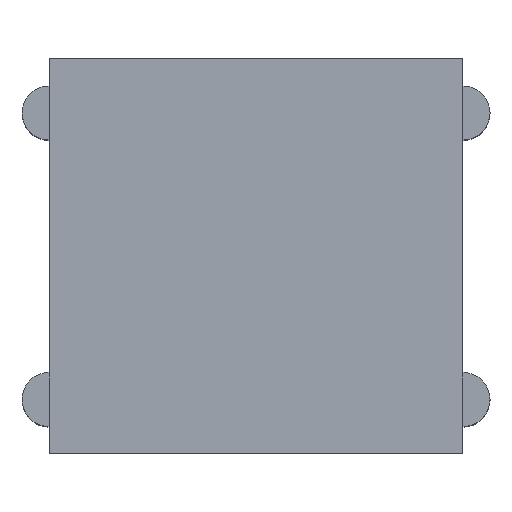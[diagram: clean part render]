
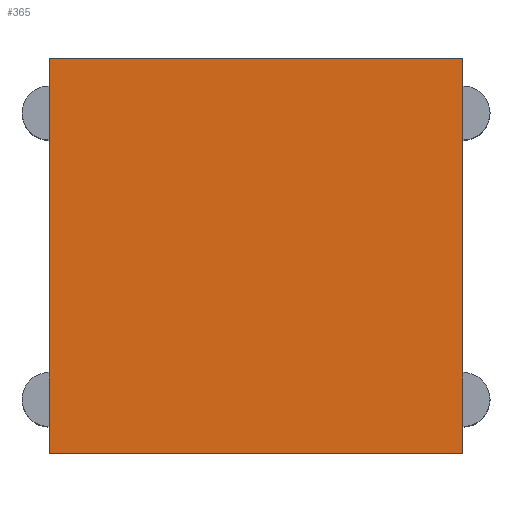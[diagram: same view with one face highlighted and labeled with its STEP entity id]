
A CAD part, top view. The second image highlights one B-rep face of the part: STEP entity #365.
In plain terms, the highlighted planar face has unit normal (0, 0, 1).
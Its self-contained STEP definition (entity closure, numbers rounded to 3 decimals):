
#51 = VERTEX_POINT('',#52);
#52 = CARTESIAN_POINT('',(0.,0.85,4.29));
#59 = PLANE('',#60);
#60 = AXIS2_PLACEMENT_3D('',#61,#62,#63);
#61 = CARTESIAN_POINT('',(0.,0.85,0.));
#62 = DIRECTION('',(0.,1.,0.));
#63 = DIRECTION('',(1.,0.,0.));
#71 = PLANE('',#72);
#72 = AXIS2_PLACEMENT_3D('',#73,#74,#75);
#73 = CARTESIAN_POINT('',(0.,-5.35,0.));
#74 = DIRECTION('',(-1.,0.,0.));
#75 = DIRECTION('',(0.,1.,0.));
#83 = EDGE_CURVE('',#51,#84,#86,.T.);
#84 = VERTEX_POINT('',#85);
#85 = CARTESIAN_POINT('',(6.5,0.85,4.29));
#86 = SURFACE_CURVE('',#87,(#91,#98),.PCURVE_S1.);
#87 = LINE('',#88,#89);
#88 = CARTESIAN_POINT('',(0.,0.85,4.29));
#89 = VECTOR('',#90,1.);
#90 = DIRECTION('',(1.,0.,0.));
#91 = PCURVE('',#59,#92);
#92 = DEFINITIONAL_REPRESENTATION('',(#93),#97);
#93 = LINE('',#94,#95);
#94 = CARTESIAN_POINT('',(0.,-4.29));
#95 = VECTOR('',#96,1.);
#96 = DIRECTION('',(1.,0.));
#97 = ( GEOMETRIC_REPRESENTATION_CONTEXT(2) 
PARAMETRIC_REPRESENTATION_CONTEXT() REPRESENTATION_CONTEXT('2D SPACE',''
  ) );
#98 = PCURVE('',#99,#104);
#99 = PLANE('',#100);
#100 = AXIS2_PLACEMENT_3D('',#101,#102,#103);
#101 = CARTESIAN_POINT('',(3.25,-2.25,4.29));
#102 = DIRECTION('',(-0.,-0.,-1.));
#103 = DIRECTION('',(-1.,0.,0.));
#104 = DEFINITIONAL_REPRESENTATION('',(#105),#109);
#105 = LINE('',#106,#107);
#106 = CARTESIAN_POINT('',(3.25,3.1));
#107 = VECTOR('',#108,1.);
#108 = DIRECTION('',(-1.,0.));
#109 = ( GEOMETRIC_REPRESENTATION_CONTEXT(2) 
PARAMETRIC_REPRESENTATION_CONTEXT() REPRESENTATION_CONTEXT('2D SPACE',''
  ) );
#127 = PLANE('',#128);
#128 = AXIS2_PLACEMENT_3D('',#129,#130,#131);
#129 = CARTESIAN_POINT('',(6.5,0.85,0.));
#130 = DIRECTION('',(1.,0.,-0.));
#131 = DIRECTION('',(0.,-1.,0.));
#169 = EDGE_CURVE('',#84,#170,#172,.T.);
#170 = VERTEX_POINT('',#171);
#171 = CARTESIAN_POINT('',(6.5,-5.35,4.29));
#172 = SURFACE_CURVE('',#173,(#177,#184),.PCURVE_S1.);
#173 = LINE('',#174,#175);
#174 = CARTESIAN_POINT('',(6.5,0.85,4.29));
#175 = VECTOR('',#176,1.);
#176 = DIRECTION('',(0.,-1.,0.));
#177 = PCURVE('',#127,#178);
#178 = DEFINITIONAL_REPRESENTATION('',(#179),#183);
#179 = LINE('',#180,#181);
#180 = CARTESIAN_POINT('',(0.,-4.29));
#181 = VECTOR('',#182,1.);
#182 = DIRECTION('',(1.,0.));
#183 = ( GEOMETRIC_REPRESENTATION_CONTEXT(2) 
PARAMETRIC_REPRESENTATION_CONTEXT() REPRESENTATION_CONTEXT('2D SPACE',''
  ) );
#184 = PCURVE('',#99,#185);
#185 = DEFINITIONAL_REPRESENTATION('',(#186),#190);
#186 = LINE('',#187,#188);
#187 = CARTESIAN_POINT('',(-3.25,3.1));
#188 = VECTOR('',#189,1.);
#189 = DIRECTION('',(0.,-1.));
#190 = ( GEOMETRIC_REPRESENTATION_CONTEXT(2) 
PARAMETRIC_REPRESENTATION_CONTEXT() REPRESENTATION_CONTEXT('2D SPACE',''
  ) );
#208 = PLANE('',#209);
#209 = AXIS2_PLACEMENT_3D('',#210,#211,#212);
#210 = CARTESIAN_POINT('',(6.5,-5.35,0.));
#211 = DIRECTION('',(0.,-1.,0.));
#212 = DIRECTION('',(-1.,0.,0.));
#245 = EDGE_CURVE('',#170,#246,#248,.T.);
#246 = VERTEX_POINT('',#247);
#247 = CARTESIAN_POINT('',(0.,-5.35,4.29));
#248 = SURFACE_CURVE('',#249,(#253,#260),.PCURVE_S1.);
#249 = LINE('',#250,#251);
#250 = CARTESIAN_POINT('',(6.5,-5.35,4.29));
#251 = VECTOR('',#252,1.);
#252 = DIRECTION('',(-1.,0.,0.));
#253 = PCURVE('',#208,#254);
#254 = DEFINITIONAL_REPRESENTATION('',(#255),#259);
#255 = LINE('',#256,#257);
#256 = CARTESIAN_POINT('',(0.,-4.29));
#257 = VECTOR('',#258,1.);
#258 = DIRECTION('',(1.,0.));
#259 = ( GEOMETRIC_REPRESENTATION_CONTEXT(2) 
PARAMETRIC_REPRESENTATION_CONTEXT() REPRESENTATION_CONTEXT('2D SPACE',''
  ) );
#260 = PCURVE('',#99,#261);
#261 = DEFINITIONAL_REPRESENTATION('',(#262),#266);
#262 = LINE('',#263,#264);
#263 = CARTESIAN_POINT('',(-3.25,-3.1));
#264 = VECTOR('',#265,1.);
#265 = DIRECTION('',(1.,0.));
#266 = ( GEOMETRIC_REPRESENTATION_CONTEXT(2) 
PARAMETRIC_REPRESENTATION_CONTEXT() REPRESENTATION_CONTEXT('2D SPACE',''
  ) );
#316 = EDGE_CURVE('',#246,#51,#317,.T.);
#317 = SURFACE_CURVE('',#318,(#322,#329),.PCURVE_S1.);
#318 = LINE('',#319,#320);
#319 = CARTESIAN_POINT('',(0.,-5.35,4.29));
#320 = VECTOR('',#321,1.);
#321 = DIRECTION('',(0.,1.,0.));
#322 = PCURVE('',#71,#323);
#323 = DEFINITIONAL_REPRESENTATION('',(#324),#328);
#324 = LINE('',#325,#326);
#325 = CARTESIAN_POINT('',(0.,-4.29));
#326 = VECTOR('',#327,1.);
#327 = DIRECTION('',(1.,0.));
#328 = ( GEOMETRIC_REPRESENTATION_CONTEXT(2) 
PARAMETRIC_REPRESENTATION_CONTEXT() REPRESENTATION_CONTEXT('2D SPACE',''
  ) );
#329 = PCURVE('',#99,#330);
#330 = DEFINITIONAL_REPRESENTATION('',(#331),#335);
#331 = LINE('',#332,#333);
#332 = CARTESIAN_POINT('',(3.25,-3.1));
#333 = VECTOR('',#334,1.);
#334 = DIRECTION('',(0.,1.));
#335 = ( GEOMETRIC_REPRESENTATION_CONTEXT(2) 
PARAMETRIC_REPRESENTATION_CONTEXT() REPRESENTATION_CONTEXT('2D SPACE',''
  ) );
#365 = ADVANCED_FACE('',(#366),#99,.F.);
#366 = FACE_BOUND('',#367,.F.);
#367 = EDGE_LOOP('',(#368,#369,#370,#371));
#368 = ORIENTED_EDGE('',*,*,#83,.T.);
#369 = ORIENTED_EDGE('',*,*,#169,.T.);
#370 = ORIENTED_EDGE('',*,*,#245,.T.);
#371 = ORIENTED_EDGE('',*,*,#316,.T.);
